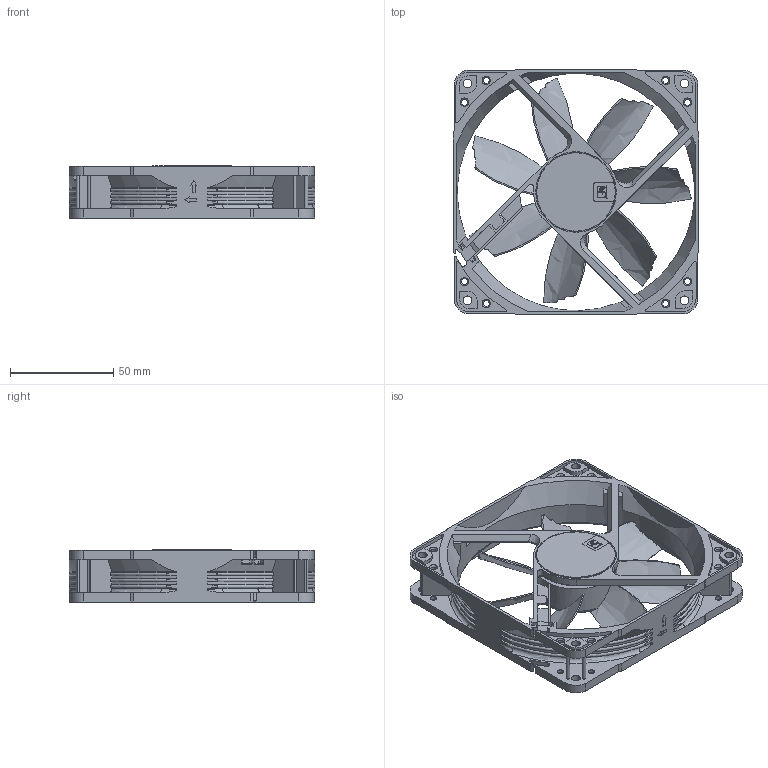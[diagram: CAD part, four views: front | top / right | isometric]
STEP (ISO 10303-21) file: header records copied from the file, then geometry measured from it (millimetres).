
FILE_DESCRIPTION(/* description */ ('140mm Desk Fan'),/* implementation_level */ '2;1');
FILE_NAME(/* name */ 'NF-S12B_Public-CAD',/* time_stamp */ '2026-04-10T09:19:40+02:00',/* author */ ('Andreas'),/* organization */ ('Rascom'),/* preprocessor_version */ 'ST-DEVELOPER v18.102',/* originating_system */ 'Solid Edge',/* authorisation */ 'Unknown');
FILE_SCHEMA (('AUTOMOTIVE_DESIGN {1 0 10303 214 3 1 1}'));
Length unit declared in the file: millimetre
Products named in the file (4): NF-S12B_Public-CAD; NF-S12B_impeller-public; Fan-Label-D38mm-Redux; NF-S12B_Frame-Public-2
Assembly tree (3 placements, depth 2):
  NF-S12B_Public-CAD
    NF-S12B_impeller-public
    Fan-Label-D38mm-Redux
    NF-S12B_Frame-Public-2
Bounding box: 119 x 119 x 25.2 mm (x, y, z)
Volume: 73984.1 mm3; surface area: 59785.7 mm2
Topology: 3 solids, 4 shells, 883 faces, 2512 edges, 1657 vertices
Faces by surface type: plane 354, cylinder 347, torus 69, bspline 54, cone 53, sphere 6
Full cylindrical faces by diameter (mm): 38 x1, 39.6 x1, 114.9 x1
Entity records: 37213 total; most frequent: CARTESIAN_POINT 14756, ORIENTED_EDGE 4996, DIRECTION 4021, EDGE_CURVE 2498, VERTEX_POINT 1653, AXIS2_PLACEMENT_3D 1431, LINE 1159, VECTOR 1159
